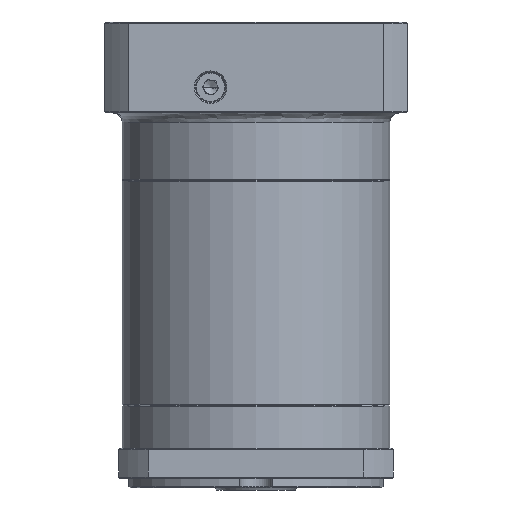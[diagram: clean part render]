
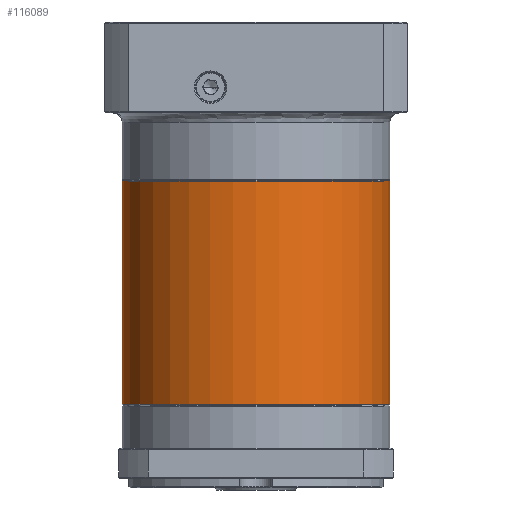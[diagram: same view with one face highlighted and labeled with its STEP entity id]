
A CAD part, front view. The second image highlights one B-rep face of the part: STEP entity #116089.
In plain terms, the highlighted cylindrical face has radius 57.5 mm (diameter 115 mm), a partial arc.
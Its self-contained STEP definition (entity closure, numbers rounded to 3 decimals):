
#402 = EDGE_CURVE ( 'NONE', #31938, #27225, #111872, .T. ) ;
#422 = CARTESIAN_POINT ( 'NONE',  ( 60.547, 56.49, -44.194 ) ) ;
#1177 = VERTEX_POINT ( 'NONE', #22700 ) ;
#10225 = EDGE_CURVE ( 'NONE', #27225, #116257, #87464, .T. ) ;
#16967 = CIRCLE ( 'NONE', #64743, 57.5 ) ;
#18346 = EDGE_CURVE ( 'NONE', #31938, #117772, #100996, .T. ) ;
#21365 = DIRECTION ( 'NONE',  ( 0., 0., 1. ) ) ;
#22253 = DIRECTION ( 'NONE',  ( -1., 0., 0. ) ) ;
#22700 = CARTESIAN_POINT ( 'NONE',  ( 3.047, 56.49, -140.406 ) ) ;
#24631 = DIRECTION ( 'NONE',  ( -1., 0., 0. ) ) ;
#25582 = ORIENTED_EDGE ( 'NONE', *, *, #75958, .T. ) ;
#27225 = VERTEX_POINT ( 'NONE', #106200 ) ;
#28153 = EDGE_LOOP ( 'NONE', ( #108289, #75767, #33107, #127680, #25582 ) ) ;
#28980 = VECTOR ( 'NONE', #86436, 1000. ) ;
#31935 = CARTESIAN_POINT ( 'NONE',  ( 60.547, 56.49, -140.406 ) ) ;
#31938 = VERTEX_POINT ( 'NONE', #73794 ) ;
#33107 = ORIENTED_EDGE ( 'NONE', *, *, #10225, .T. ) ;
#37760 = DIRECTION ( 'NONE',  ( 0., 0., -1. ) ) ;
#38476 = CYLINDRICAL_SURFACE ( 'NONE', #77542, 57.5 ) ;
#64743 = AXIS2_PLACEMENT_3D ( 'NONE', #31935, #21365, #22253 ) ;
#66179 = DIRECTION ( 'NONE',  ( -1., 0., 0. ) ) ;
#73794 = CARTESIAN_POINT ( 'NONE',  ( 118.047, 56.49, -44.694 ) ) ;
#75747 = CARTESIAN_POINT ( 'NONE',  ( 60.547, 56.49, -44.694 ) ) ;
#75767 = ORIENTED_EDGE ( 'NONE', *, *, #402, .T. ) ;
#75958 = EDGE_CURVE ( 'NONE', #1177, #117772, #16967, .T. ) ;
#77542 = AXIS2_PLACEMENT_3D ( 'NONE', #422, #122364, #81480 ) ;
#81480 = DIRECTION ( 'NONE',  ( -1., 0., 0. ) ) ;
#82573 = LINE ( 'NONE', #115486, #28980 ) ;
#82772 = AXIS2_PLACEMENT_3D ( 'NONE', #96100, #126490, #66179 ) ;
#84516 = CARTESIAN_POINT ( 'NONE',  ( 118.047, 56.49, -140.406 ) ) ;
#85343 = CARTESIAN_POINT ( 'NONE',  ( 118.047, 56.49, -44.194 ) ) ;
#85470 = AXIS2_PLACEMENT_3D ( 'NONE', #75747, #105613, #24631 ) ;
#86436 = DIRECTION ( 'NONE',  ( 0., 0., -1. ) ) ;
#87464 = CIRCLE ( 'NONE', #82772, 57.5 ) ;
#96100 = CARTESIAN_POINT ( 'NONE',  ( 60.547, 56.49, -44.694 ) ) ;
#97874 = VECTOR ( 'NONE', #37760, 1000. ) ;
#100996 = LINE ( 'NONE', #85343, #97874 ) ;
#101441 = EDGE_CURVE ( 'NONE', #116257, #1177, #82573, .T. ) ;
#105613 = DIRECTION ( 'NONE',  ( 0., 0., -1. ) ) ;
#106200 = CARTESIAN_POINT ( 'NONE',  ( 60.547, -1.01, -44.694 ) ) ;
#108289 = ORIENTED_EDGE ( 'NONE', *, *, #18346, .F. ) ;
#111787 = CARTESIAN_POINT ( 'NONE',  ( 3.047, 56.49, -44.694 ) ) ;
#111872 = CIRCLE ( 'NONE', #85470, 57.5 ) ;
#115486 = CARTESIAN_POINT ( 'NONE',  ( 3.047, 56.49, -44.194 ) ) ;
#116089 = ADVANCED_FACE ( 'NONE', ( #126758 ), #38476, .T. ) ;
#116257 = VERTEX_POINT ( 'NONE', #111787 ) ;
#117772 = VERTEX_POINT ( 'NONE', #84516 ) ;
#122364 = DIRECTION ( 'NONE',  ( 0., 0., -1. ) ) ;
#126490 = DIRECTION ( 'NONE',  ( 0., 0., -1. ) ) ;
#126758 = FACE_OUTER_BOUND ( 'NONE', #28153, .T. ) ;
#127680 = ORIENTED_EDGE ( 'NONE', *, *, #101441, .T. ) ;
